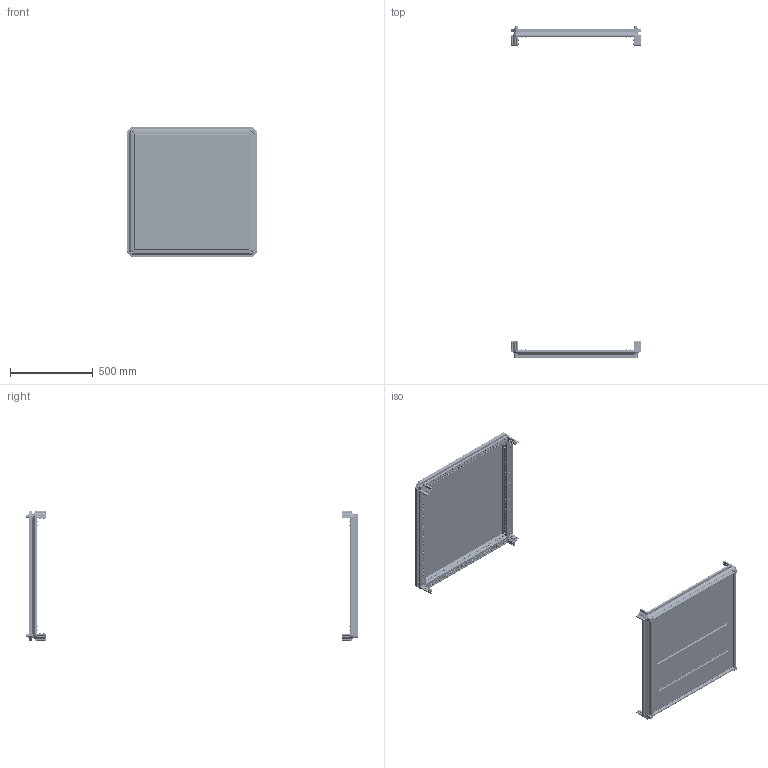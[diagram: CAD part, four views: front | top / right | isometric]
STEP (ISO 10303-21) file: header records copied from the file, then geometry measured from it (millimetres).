
FILE_DESCRIPTION (( 'STEP AP203' ), '1' );
FILE_NAME ('MA1.101.080820.00.00 AleSta-RB88 Êîìïëåêò êðûøà è îñíîâàíèå.STEP', '2025-02-19T14:01:31', ( '' ), ( '' ), 'SwSTEP 2.0', 'SolidWorks 2021', '' );
FILE_SCHEMA (( 'CONFIG_CONTROL_DESIGN' ));
Length unit declared in the file: millimetre
Products named in the file (18): Øïèëüêà Ì6õ12_˜¯¨«ìª  Œ6å12; MA1.101.060620.20.01 Ïîëîòíî íèæíåé ïàíåëè 600õ600_800å800; MA1.101.080820.00.00 AleSta-RB88 Êîìïëåêò êðûøà è îñíîâàíèå; MA1.101.060620.10.00 Êðûøà 600x600_800å800; 7380-2 ISO Âèíòû ñ ïîëóêðóãëîé ãîëîâêîé ñ ôëàíöåì ñ âíóòðåííèì øåñòèãðàííèêîì Ì4õ10; Âèíò_ðåçüáîâûäàâëèâàþùèé_Ì5õ12_DIN 7500E_Œ5å12; MA1.100.060620.00.01 Ñîåäèíèòåëü óãëîâîé_00; MA1.101.060620.00.02 Ïðîôèëü ïîïåðå÷íûé ñâàðíîé_02 L=698 (˜=800) ; ﾘ琺矜 01.019 ﾃﾎﾑﾒ11371-78_12; Âèíò ðåçüáîâûäàâëèâàþùèé Ì6õ12 DIN 7500E_Œ6å10; ﾇﾀﾊﾋﾅﾏﾊﾀ ﾃﾀﾅﾗﾍﾀﾟ ﾘﾅﾑﾒﾈﾃﾐﾀﾍﾍﾀﾟ ﾑ ﾓﾌﾅﾍﾜﾘﾅﾍﾍﾛﾌ ﾁﾎﾐﾒﾎﾌ M4 X 11 (0.5-2.5 ﾌﾌ) HEX U-S ﾖﾈﾍﾊ; MA1.101.060620.10.01 Ïîëîòíî êðûøè 600õ600_800x800; MA1.101.060620.20.02 Çàêðûòèå íèæíåé ïàíåëè 600õ600_800x800; Øàéáà ñòîïîðíàÿ ñ íàðóæíûìè çóáöàìè SCHNORR, òèï VS öèíêîâûå õëîïüÿ Ì6 O6,4 ART 88121_Œ6; Óïëîòíèòåëü ïàíåëè íèæíåé_800å800; ﾘ琺矜 65ﾃ 019 ﾃﾎﾑﾒ 6402-70_12; MA1.101.060620.20.00 Íèæíÿÿ ïàíåëü 600õ600_800å800; Âèíò ñ âí. øåñòèãðàííèêîì M12 DIN912_•30
Assembly tree (215 placements, depth 3):
  MA1.101.080820.00.00 AleSta-RB88 Êîìïëåêò êðûøà è îñíîâàíèå
    MA1.101.060620.00.02 Ïðîôèëü ïîïåðå÷íûé ñâàðíîé_02 L=698 (˜=800)   x8
    MA1.101.060620.10.00 Êðûøà 600x600_800å800
      MA1.101.060620.10.01 Ïîëîòíî êðûøè 600õ600_800x800
      Øïèëüêà Ì6õ12_˜¯¨«ìª  Œ6å12  x4
      Óïëîòíèòåëü ïàíåëè íèæíåé_800å800
    MA1.101.060620.20.00 Íèæíÿÿ ïàíåëü 600õ600_800å800
      MA1.101.060620.20.01 Ïîëîòíî íèæíåé ïàíåëè 600õ600_800å800
      ﾇﾀﾊﾋﾅﾏﾊﾀ ﾃﾀﾅﾗﾍﾀﾟ ﾘﾅﾑﾒﾈﾃﾐﾀﾍﾍﾀﾟ ﾑ ﾓﾌﾅﾍﾜﾘﾅﾍﾍﾛﾌ ﾁﾎﾐﾒﾎﾌ M4 X 11 (0.5-2.5 ﾌﾌ) HEX U-S ﾖﾈﾍﾊ  x4
      MA1.101.060620.20.02 Çàêðûòèå íèæíåé ïàíåëè 600õ600_800x800  x2
      7380-2 ISO Âèíòû ñ ïîëóêðóãëîé ãîëîâêîé ñ ôëàíöåì ñ âíóòðåííèì øåñòèãðàííèêîì Ì4õ10  x4
    Âèíò_ðåçüáîâûäàâëèâàþùèé_Ì5õ12_DIN 7500E_Œ5å12  x8
    MA1.100.060620.00.01 Ñîåäèíèòåëü óãëîâîé_00  x8
    Âèíò ñ âí. øåñòèãðàííèêîì M12 DIN912_•30  x4
    Âèíò ðåçüáîâûäàâëèâàþùèé Ì6õ12 DIN 7500E_Œ6å10  x80
    ﾘ琺矜 01.019 ﾃﾎﾑﾒ11371-78_12  x4
    ﾘ琺矜 65ﾃ 019 ﾃﾎﾑﾒ 6402-70_12  x4
    Øàéáà ñòîïîðíàÿ ñ íàðóæíûìè çóáöàìè SCHNORR, òèï VS öèíêîâûå õëîïüÿ Ì6 O6,4 ART 88121_Œ6  x80
Bounding box: 792 x 2010.9 x 792 mm (x, y, z)
Volume: 4273684.8 mm3; surface area: 4836827.9 mm2
Topology: 213 solids, 213 shells, 12582 faces, 32872 edges, 20720 vertices
Faces by surface type: plane 9182, cylinder 2584, cone 520, bspline 248, torus 48
Entity records: 54301 total; most frequent: CARTESIAN_POINT 11589, DIRECTION 7284, ORIENTED_EDGE 7210, EDGE_CURVE 3605, VECTOR 2684, LINE 2684, AXIS2_PLACEMENT_3D 2300, VERTEX_POINT 2203
